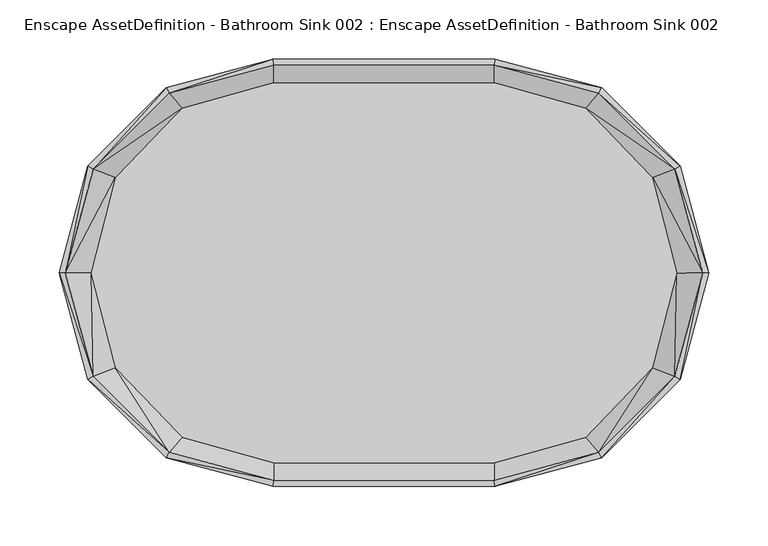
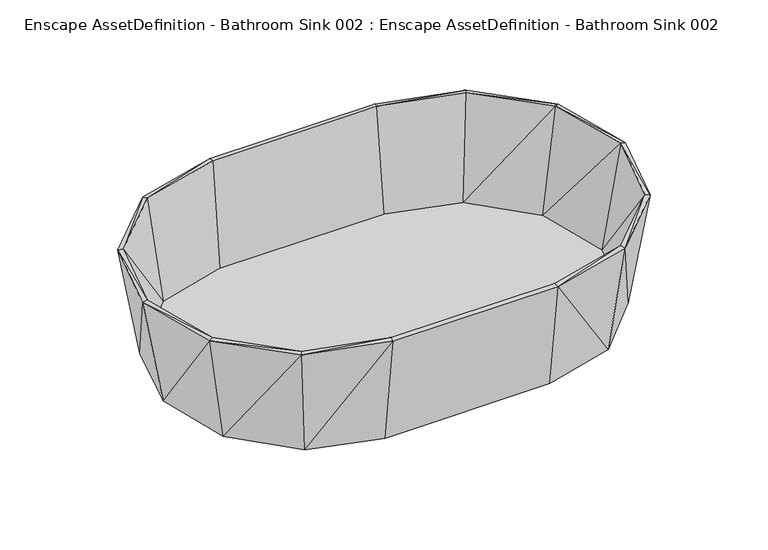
"""IFC4 building model written with IfcOpenShell, lengths in millimetres: geographic element geometry, Enscape AssetDefinition - Bathroom Sink 002 : Enscape AssetDefinition - Bathroom Sink 002."""

from ifc_helpers import new_model, si_unit, origin, place, context, project, spatial, triangles, source, transform, mapped, element, save


def enscape_assetdefinition_bathroom_sink_002_enscape_5c1a21d4(model_context):
    return source(origin(), model_context, "Body", "Tessellation", [
        triangles([(-93.7878527, 180.7906544, 126.9665506), (-93.7878527, 164.4507724, 0.0), (-184.1831617, 156.5692041, 126.9665506), (-181.5165185, 152.0105706, 127.7069033), (93.7878527, 180.7906544, 126.9665506), (-93.1044642, 175.5440997, 127.6418092), (-245.7803467, 87.7982564, 127.836156), (-170.6302099, 139.1608735, 7.0888007), (-226.9591481, 80.3975999, 7.1448457), (-250.3570659, 90.3953272, 126.9665506), (-269.3301447, 0.0099435, 127.9166016), (-247.6045268, 0.0081356, 7.1656362), (-93.2897817, 160.8051374, 7.1864283), (-226.9519175, -80.3831295, 7.1321909), (-181.5101781, -152.0196181, 127.7430475), (-250.3570659, -90.3953272, 126.9665506), (-245.7902843, -87.7928334, 127.8705107), (-274.5784799, 0.0, 126.9665506), (-251.3053183, 0.0, 0.0), (-230.2025366, -82.2253862, 0.0), (-172.5465719, 142.4187233, 0.0), (-230.2025366, 82.2253862, 0.0), (-184.1831617, -156.5692041, 126.9665506), (-172.5465719, -142.4187233, 0.0), (-93.7878527, -164.4507724, 0.0), (93.7878527, 164.4507724, 0.0), (93.7878527, -164.4507724, 0.0), (93.7878527, -180.7906544, 126.9665506), (-93.7878527, -180.7906544, 126.9665506), (93.0945266, -175.5476968, 127.6526461), (184.1831617, -156.5692041, 126.9665506), (170.616657, -139.1536428, 7.0761453), (-93.0945266, -175.5476968, 127.6526461), (181.5101781, -152.0196181, 127.7430475), (245.7902843, -87.7928334, 127.8705107), (226.9519175, -80.3831295, 7.1321909), (172.5465719, -142.4187233, 0.0), (250.3570659, -90.3953272, 126.9665506), (93.2807434, -160.8015221, 7.1819086), (-93.2807434, -160.8015221, 7.1819086), (-170.616657, -139.1536428, 7.0761453), (93.1044642, 175.5440997, 127.6418092), (93.2897817, 160.8051374, 7.1864283), (170.6302099, 139.1608735, 7.0888007), (181.5165185, 152.0105706, 127.7069033), (250.3570659, 90.3953272, 126.9665506), (172.5465719, 142.4187233, 0.0), (184.1831617, 156.5692041, 126.9665506), (226.9591481, 80.3975999, 7.1448457), (245.7803467, 87.7982564, 127.836156), (269.3301447, 0.0099435, 127.9166016), (274.5784799, 0.0, 126.9665506), (230.2025366, 82.2253862, 0.0), (251.3053183, 0.0, 0.0), (230.2025366, -82.2253862, 0.0), (247.6045268, 0.0081356, 7.1656362)], [[56, 44, 43], [56, 49, 44], [49, 56, 51], [54, 55, 37], [38, 55, 54], [54, 37, 26], [54, 26, 47], [54, 47, 53], [38, 52, 51], [54, 52, 38], [52, 54, 53], [50, 51, 52], [51, 50, 49], [44, 49, 50], [52, 46, 50], [53, 46, 52], [46, 53, 47], [47, 48, 46], [26, 5, 48], [48, 47, 26], [46, 48, 45], [45, 50, 46], [50, 45, 44], [43, 44, 45], [6, 42, 5], [48, 5, 42], [42, 45, 48], [45, 42, 43], [42, 6, 13], [13, 43, 42], [15, 41, 14], [41, 15, 33], [43, 13, 40], [41, 40, 13], [33, 40, 41], [40, 39, 43], [39, 40, 33], [32, 43, 39], [32, 56, 43], [32, 36, 56], [51, 35, 38], [35, 51, 56], [56, 36, 35], [31, 38, 35], [55, 38, 31], [31, 37, 55], [35, 34, 31], [34, 35, 36], [36, 32, 34], [33, 30, 39], [30, 34, 32], [32, 39, 30], [28, 31, 34], [34, 30, 28], [37, 31, 28], [37, 27, 26], [28, 27, 37], [29, 28, 30], [30, 33, 29], [27, 28, 29], [26, 27, 25], [29, 25, 27], [25, 2, 26], [5, 26, 2], [2, 25, 24], [24, 25, 29], [23, 29, 33], [33, 15, 23], [29, 23, 24], [20, 24, 23], [21, 22, 10], [19, 24, 20], [19, 2, 24], [19, 21, 2], [19, 22, 21], [16, 23, 15], [23, 16, 20], [19, 20, 16], [16, 18, 19], [22, 19, 18], [18, 10, 22], [15, 17, 16], [18, 16, 17], [14, 17, 15], [12, 41, 13], [12, 14, 41], [17, 14, 12], [17, 11, 18], [10, 18, 11], [12, 11, 17], [11, 12, 9], [8, 12, 13], [8, 9, 12], [11, 7, 10], [9, 7, 11], [7, 9, 8], [8, 4, 7], [4, 8, 13], [13, 6, 4], [5, 1, 6], [4, 6, 1], [2, 1, 5], [3, 10, 7], [7, 4, 3], [1, 3, 4], [10, 3, 21], [2, 21, 3], [3, 1, 2]]),
    ])


if __name__ == "__main__":
    model = new_model("IFC4")
    model_context = context("Model", 3, world=origin())
    ifc_project = project(units=[si_unit("LENGTHUNIT", "METRE", prefix="MILLI")], contexts=[model_context])
    site = spatial("IfcSite", under=ifc_project)
    building = spatial("IfcBuilding", under=site)
    placement = place(None, origin())
    enscape_assetdefinition_bathroom_sink_002_enscape_shape = enscape_assetdefinition_bathroom_sink_002_enscape_5c1a21d4(model_context)
    element("IfcGeographicElement", 1, ObjectType="Enscape AssetDefinition - Bathroom Sink 002 : Enscape AssetDefinition - Bathroom Sink 002", at=placement, inside=building, context=model_context, shape_type="MappedRepresentation", body=[
        mapped(enscape_assetdefinition_bathroom_sink_002_enscape_shape, transform((0.0, 0.0, 0.0), x_axis=(1.0, 0.0, 0.0), y_axis=(0.0, 1.0, 0.0), z_axis=(0.0, 0.0, 1.0))),
    ])
    save(model, "model.ifc")
